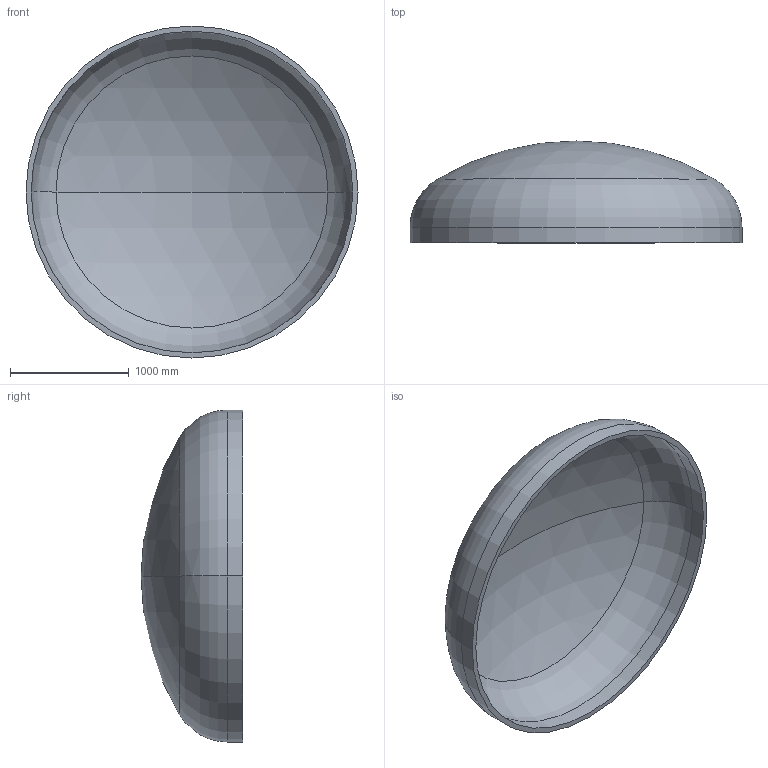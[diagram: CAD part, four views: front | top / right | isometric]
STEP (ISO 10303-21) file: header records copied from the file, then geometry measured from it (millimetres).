
FILE_DESCRIPTION (( 'STEP AP203' ), '1' );
FILE_NAME ('DIN 28013 Korbbogenform_-_Boden DIN 28013 - 2800 x 130 - I - s=43.step', '2016-07-01T16:59:43', ( '' ), ( '' ), 'SwSTEP 2.0', 'SolidWorks 2013', '' );
FILE_SCHEMA (( 'CONFIG_CONTROL_DESIGN' ));
Length unit declared in the file: millimetre
Products named in the file (1): DIN 28013 Korbbogenform_-_Boden DIN 28013 - 2800 x 130 - I - s=43
Bounding box: 2800 x 858.4 x 2800 mm (x, y, z)
Volume: 407566250.1 mm3; surface area: 19332874.8 mm2
Topology: 1 solids, 1 shells, 13 faces, 24 edges, 14 vertices
Faces by surface type: torus 4, cylinder 4, sphere 4, plane 1
Entity records: 407 total; most frequent: DIRECTION 72, CARTESIAN_POINT 52, ORIENTED_EDGE 48, AXIS2_PLACEMENT_3D 34, EDGE_CURVE 24, CIRCLE 20, VERTEX_POINT 14, EDGE_LOOP 14
